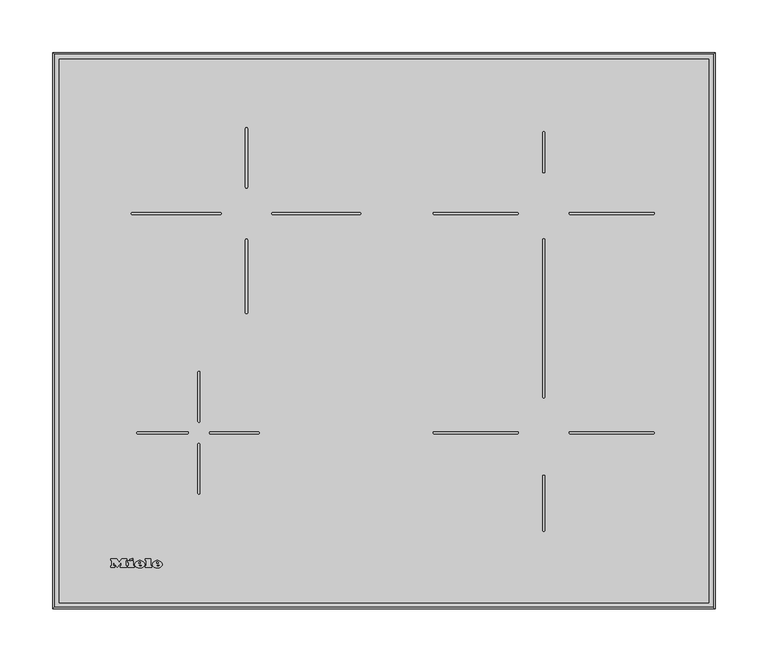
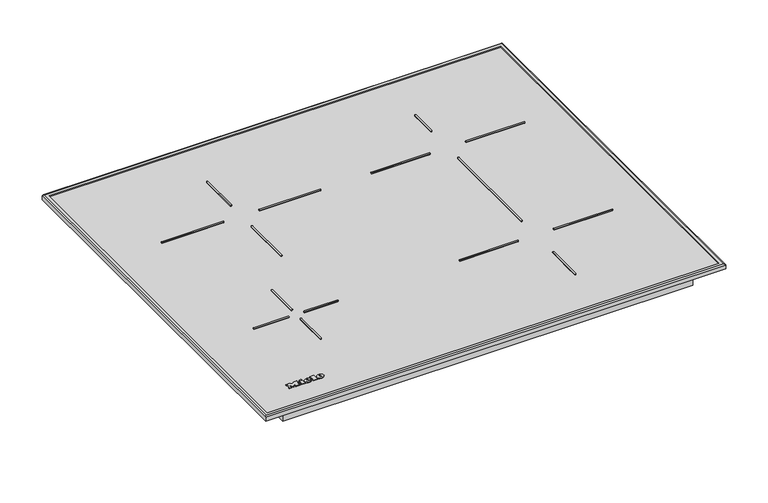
"""IFC4 building model written with IfcOpenShell, lengths in millimetres: proxy geometry, 12422050_NER_KM7363FR : 26736310_NER_12422050_KM7363FR."""

from ifc_helpers import new_model, si_unit, point, frame, frame_2d, origin, origin_with_axes, place, context, project, spatial, polyline, circle_curve, ellipse_curve, trimmed, segment, composite_curve, outline, extrude, source, transform, mapped, element, save
from ifc_brep_helpers import plane_surface, cylinder_surface, revolved_surface, extruded_surface, advanced_brep


def specialty_equipment_649d066a(model_context):
    return source(origin(), model_context, "Body", "SolidModel", [
        advanced_brep(
        [(-214.911984, 41.066, 5.0000007), (-214.911984, 41.874, 5.0000007), (-209.559984, 41.874, 5.0000007), (-218.871984, 41.874, 5.0000007), (-216.671984, 39.17, 5.0000007), (-209.695984, 41.066, 5.0000007), (-212.111984, 41.066, 5.0000007), (-214.015984, 40.17, 5.0000007), (-214.911984, 42.898, 5.0000007), (-214.911984, 43.77, 5.0000007), (-213.543984, 43.77, 5.0000007), (-213.543984, 42.898, 5.0000007), (-214.911984, 41.066, 4.0000007), (-214.015984, 40.17, 4.0000007), (-212.111984, 41.066, 4.0000007), (-209.695984, 41.066, 4.0000007), (-216.671984, 39.17, 4.0000007), (-218.871984, 41.874, 4.0000007), (-209.559984, 41.874, 4.0000007), (-214.911984, 41.874, 4.0000007), (-214.911984, 42.898, 4.0000007), (-213.543984, 42.898, 4.0000007), (-213.543984, 43.77, 4.0000007), (-214.911984, 43.77, 4.0000007)],
        [
            (0, 1),
            (1, 2),
            (2, 3, ellipse_curve(frame((-214.215984, 41.874, 5.0000007), z_axis=(0.0, 0.0, 1.0), x_axis=(-1.0, 0.0, 0.0)), 4.656, 3.848)),
            (3, 4, circle_curve(frame((-215.7759404, 42.146, 5.0000007), z_axis=(0.0, 0.0, 1.0), x_axis=(0.0, -1.0, 0.0)), 3.1079688)),
            (4, 5, circle_curve(frame((-214.3091904, 44.258, 5.0000007), z_axis=(0.0, 0.0, 1.0), x_axis=(0.0, -1.0, 0.0)), 5.6098607)),
            (5, 6),
            (6, 7, circle_curve(frame((-213.6249252, 41.81, 5.0000007), z_axis=(0.0, 0.0, -1.0), x_axis=(0.0, -1.0, 0.0)), 1.6859795)),
            (7, 0, circle_curve(frame((-214.015984, 41.066, 5.0000007), z_axis=(0.0, 0.0, -1.0), x_axis=(0.0, -1.0, 0.0)), 0.896)),
            (8, 9),
            (9, 10, circle_curve(frame((-214.227984, 43.77, 5.0000007), z_axis=(0.0, 0.0, -1.0), x_axis=(0.0, -1.0, 0.0)), 0.684)),
            (10, 11),
            (11, 8),
            (12, 13, circle_curve(frame((-214.015984, 41.066, 4.0000007), z_axis=(0.0, 0.0, 1.0), x_axis=(0.0, -1.0, 0.0)), 0.896)),
            (13, 14, circle_curve(frame((-213.6249252, 41.81, 4.0000007), z_axis=(0.0, 0.0, 1.0), x_axis=(0.0, -1.0, 0.0)), 1.6859795)),
            (14, 15),
            (15, 16, circle_curve(frame((-214.3091904, 44.258, 4.0000007), z_axis=(0.0, 0.0, -1.0), x_axis=(0.0, -1.0, 0.0)), 5.6098607)),
            (16, 17, circle_curve(frame((-215.7759404, 42.146, 4.0000007), z_axis=(0.0, 0.0, -1.0), x_axis=(0.0, -1.0, 0.0)), 3.1079688)),
            (17, 18, ellipse_curve(frame((-214.215984, 41.874, 4.0000007), z_axis=(0.0, 0.0, -1.0), x_axis=(-1.0, 0.0, 0.0)), 4.656, 3.848)),
            (18, 19),
            (19, 12),
            (20, 21),
            (21, 22),
            (22, 23, circle_curve(frame((-214.227984, 43.77, 4.0000007), z_axis=(0.0, 0.0, 1.0), x_axis=(0.0, -1.0, 0.0)), 0.684)),
            (23, 20),
            (0, 12),
            (19, 1),
            (18, 2),
            (5, 15),
            (14, 6),
            (17, 3),
            (13, 7),
            (16, 4),
            (8, 20),
            (23, 9),
            (22, 10),
            (21, 11),
        ],
        [
            plane_surface(frame((-214.911984, 41.874, 5.0000007), z_axis=(0.0, 0.0, 1.0), x_axis=(0.0, 1.0, 0.0))),
            plane_surface(frame((-214.911984, 41.874, 4.0000007), z_axis=(0.0, 0.0, -1.0), x_axis=(0.0, -1.0, 0.0))),
            plane_surface(frame((-214.911984, 41.066, 5.0000007), z_axis=(1.0, 0.0, 0.0), x_axis=(0.0, 0.0, -1.0))),
            plane_surface(frame((-214.911984, 41.874, 5.0000007), z_axis=(0.0, -1.0, 0.0), x_axis=(0.0, 0.0, -1.0))),
            plane_surface(frame((-209.695984, 41.066, 5.0000007), z_axis=(0.0, 1.0, 0.0), x_axis=(0.0, 0.0, -1.0))),
            extruded_surface(trimmed(ellipse_curve(frame((-214.215984, 41.874, 3.0000007), z_axis=(0.0, 0.0, 1.0), x_axis=(-1.0, 0.0, 0.0)), 4.656, 3.848), [point((-209.559984, 41.874, 3.0000007))], [point((-218.871984, 41.874, 3.0000007))], True, "CARTESIAN"), (0.0, 0.0, 1.0), 1.0),
            revolved_surface(polyline([(-213.6249252, 40.1240205, 4.0000007), (-213.6249252, 40.1240205, 5.0000007)]), (-213.6249252, 41.81, 4.0000007), (0.0, 0.0, -1.0)),
            revolved_surface(polyline([(-214.015984, 40.17, 4.0000007), (-214.015984, 40.17, 5.0000007)]), (-214.015984, 41.066, 4.0000007), (0.0, 0.0, -1.0)),
            cylinder_surface(frame((-215.7759404, 42.146, 4.0000007), z_axis=(0.0, 0.0, 1.0), x_axis=(0.0, -1.0, 0.0)), 3.1079688),
            cylinder_surface(frame((-214.3091904, 44.258, 4.0000007), z_axis=(0.0, 0.0, 1.0), x_axis=(0.0, -1.0, 0.0)), 5.6098607),
            plane_surface(frame((-214.911984, 42.898, 5.0000007), z_axis=(1.0, 0.0, 0.0), x_axis=(0.0, 0.0, -1.0))),
            revolved_surface(polyline([(-214.227984, 43.086000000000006, 4.0000007), (-214.227984, 43.086000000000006, 5.0000007)]), (-214.227984, 43.77, 4.0000007), (0.0, 0.0, -1.0)),
            plane_surface(frame((-213.543984, 43.77, 5.0000007), z_axis=(-1.0, 0.0, 0.0), x_axis=(0.0, 0.0, -1.0))),
            plane_surface(frame((-213.543984, 42.898, 5.0000007), z_axis=(0.0, 1.0, 0.0), x_axis=(0.0, 0.0, -1.0))),
        ],
        [
            (0, [[1, 2, 3, 4, 5, 6, 7, 8], [9, 10, 11, 12]]),
            (1, [[13, 14, 15, 16, 17, 18, 19, 20], [21, 22, 23, 24]]),
            (2, [[-1, 25, -20, 26]]),
            (3, [[-2, -26, -19, 27]]),
            (4, [[-6, 28, -15, 29]]),
            (5, [[-3, -27, -18, 30]]),
            (6, [[-7, -29, -14, 31]]),
            (7, [[-8, -31, -13, -25]]),
            (8, [[-4, -30, -17, 32]]),
            (9, [[-5, -32, -16, -28]]),
            (10, [[-9, 33, -24, 34]]),
            (11, [[-10, -34, -23, 35]]),
            (12, [[-11, -35, -22, 36]]),
            (13, [[-12, -36, -21, -33]]),
        ],
    ),
        advanced_brep(
        [(-231.607984, 41.066, 5.0000007), (-231.607984, 41.874, 5.0000007), (-226.255984, 41.874, 5.0000007), (-235.567984, 41.874, 5.0000007), (-233.367984, 39.17, 5.0000007), (-226.391984, 41.066, 5.0000007), (-228.807984, 41.066, 5.0000007), (-230.711984, 40.17, 5.0000007), (-231.607984, 42.898, 5.0000007), (-231.607984, 43.77, 5.0000007), (-230.239984, 43.77, 5.0000007), (-230.239984, 42.898, 5.0000007), (-231.607984, 41.066, 4.0000007), (-230.711984, 40.17, 4.0000007), (-228.807984, 41.066, 4.0000007), (-226.391984, 41.066, 4.0000007), (-233.367984, 39.17, 4.0000007), (-235.567984, 41.874, 4.0000007), (-226.255984, 41.874, 4.0000007), (-231.607984, 41.874, 4.0000007), (-231.607984, 42.898, 4.0000007), (-230.239984, 42.898, 4.0000007), (-230.239984, 43.77, 4.0000007), (-231.607984, 43.77, 4.0000007)],
        [
            (0, 1),
            (1, 2),
            (2, 3, ellipse_curve(frame((-230.911984, 41.874, 5.0000007), z_axis=(0.0, 0.0, 1.0), x_axis=(-1.0, 0.0, 0.0)), 4.656, 3.848)),
            (3, 4, circle_curve(frame((-232.4719404, 42.146, 5.0000007), z_axis=(0.0, 0.0, 1.0), x_axis=(0.0, -1.0, 0.0)), 3.1079688)),
            (4, 5, circle_curve(frame((-231.0051904, 44.258, 5.0000007), z_axis=(0.0, 0.0, 1.0), x_axis=(0.0, -1.0, 0.0)), 5.6098607)),
            (5, 6),
            (6, 7, circle_curve(frame((-230.3209252, 41.81, 5.0000007), z_axis=(0.0, 0.0, -1.0), x_axis=(0.0, -1.0, 0.0)), 1.6859795)),
            (7, 0, circle_curve(frame((-230.711984, 41.066, 5.0000007), z_axis=(0.0, 0.0, -1.0), x_axis=(0.0, -1.0, 0.0)), 0.896)),
            (8, 9),
            (9, 10, circle_curve(frame((-230.923984, 43.77, 5.0000007), z_axis=(0.0, 0.0, -1.0), x_axis=(0.0, -1.0, 0.0)), 0.684)),
            (10, 11),
            (11, 8),
            (12, 13, circle_curve(frame((-230.711984, 41.066, 4.0000007), z_axis=(0.0, 0.0, 1.0), x_axis=(0.0, -1.0, 0.0)), 0.896)),
            (13, 14, circle_curve(frame((-230.3209252, 41.81, 4.0000007), z_axis=(0.0, 0.0, 1.0), x_axis=(0.0, -1.0, 0.0)), 1.6859795)),
            (14, 15),
            (15, 16, circle_curve(frame((-231.0051904, 44.258, 4.0000007), z_axis=(0.0, 0.0, -1.0), x_axis=(0.0, -1.0, 0.0)), 5.6098607)),
            (16, 17, circle_curve(frame((-232.4719404, 42.146, 4.0000007), z_axis=(0.0, 0.0, -1.0), x_axis=(0.0, -1.0, 0.0)), 3.1079688)),
            (17, 18, ellipse_curve(frame((-230.911984, 41.874, 4.0000007), z_axis=(0.0, 0.0, -1.0), x_axis=(-1.0, 0.0, 0.0)), 4.656, 3.848)),
            (18, 19),
            (19, 12),
            (20, 21),
            (21, 22),
            (22, 23, circle_curve(frame((-230.923984, 43.77, 4.0000007), z_axis=(0.0, 0.0, 1.0), x_axis=(0.0, -1.0, 0.0)), 0.684)),
            (23, 20),
            (0, 12),
            (19, 1),
            (18, 2),
            (5, 15),
            (14, 6),
            (17, 3),
            (13, 7),
            (16, 4),
            (8, 20),
            (23, 9),
            (22, 10),
            (21, 11),
        ],
        [
            plane_surface(frame((-231.607984, 41.874, 5.0000007), z_axis=(0.0, 0.0, 1.0), x_axis=(0.0, 1.0, 0.0))),
            plane_surface(frame((-231.607984, 41.874, 4.0000007), z_axis=(0.0, 0.0, -1.0), x_axis=(0.0, -1.0, 0.0))),
            plane_surface(frame((-231.607984, 41.066, 5.0000007), z_axis=(1.0, 0.0, 0.0), x_axis=(0.0, 0.0, -1.0))),
            plane_surface(frame((-231.607984, 41.874, 5.0000007), z_axis=(0.0, -1.0, 0.0), x_axis=(0.0, 0.0, -1.0))),
            plane_surface(frame((-226.391984, 41.066, 5.0000007), z_axis=(0.0, 1.0, 0.0), x_axis=(0.0, 0.0, -1.0))),
            extruded_surface(trimmed(ellipse_curve(frame((-230.911984, 41.874, 3.0000007), z_axis=(0.0, 0.0, 1.0), x_axis=(-1.0, 0.0, 0.0)), 4.656, 3.848), [point((-226.255984, 41.874, 3.0000007))], [point((-235.567984, 41.874, 3.0000007))], True, "CARTESIAN"), (0.0, 0.0, 1.0), 1.0),
            revolved_surface(polyline([(-230.3209252, 40.1240205, 4.0000007), (-230.3209252, 40.1240205, 5.0000007)]), (-230.3209252, 41.81, 4.0000007), (0.0, 0.0, -1.0)),
            revolved_surface(polyline([(-230.711984, 40.17, 4.0000007), (-230.711984, 40.17, 5.0000007)]), (-230.711984, 41.066, 4.0000007), (0.0, 0.0, -1.0)),
            cylinder_surface(frame((-232.4719404, 42.146, 4.0000007), z_axis=(0.0, 0.0, 1.0), x_axis=(0.0, -1.0, 0.0)), 3.1079688),
            cylinder_surface(frame((-231.0051904, 44.258, 4.0000007), z_axis=(0.0, 0.0, 1.0), x_axis=(0.0, -1.0, 0.0)), 5.6098607),
            plane_surface(frame((-231.607984, 42.898, 5.0000007), z_axis=(1.0, 0.0, 0.0), x_axis=(0.0, 0.0, -1.0))),
            revolved_surface(polyline([(-230.923984, 43.086000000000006, 4.0000007), (-230.923984, 43.086000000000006, 5.0000007)]), (-230.923984, 43.77, 4.0000007), (0.0, 0.0, -1.0)),
            plane_surface(frame((-230.239984, 43.77, 5.0000007), z_axis=(-1.0, 0.0, 0.0), x_axis=(0.0, 0.0, -1.0))),
            plane_surface(frame((-230.239984, 42.898, 5.0000007), z_axis=(0.0, 1.0, 0.0), x_axis=(0.0, 0.0, -1.0))),
        ],
        [
            (0, [[1, 2, 3, 4, 5, 6, 7, 8], [9, 10, 11, 12]]),
            (1, [[13, 14, 15, 16, 17, 18, 19, 20], [21, 22, 23, 24]]),
            (2, [[-1, 25, -20, 26]]),
            (3, [[-2, -26, -19, 27]]),
            (4, [[-6, 28, -15, 29]]),
            (5, [[-3, -27, -18, 30]]),
            (6, [[-7, -29, -14, 31]]),
            (7, [[-8, -31, -13, -25]]),
            (8, [[-4, -30, -17, 32]]),
            (9, [[-5, -32, -16, -28]]),
            (10, [[-9, 33, -24, 34]]),
            (11, [[-10, -34, -23, 35]]),
            (12, [[-11, -35, -22, 36]]),
            (13, [[-12, -36, -21, -33]]),
        ],
    ),
        extrude(outline(polyline([(-240.351984, 46.698), (-237.631984, 47.962), (-237.031984, 46.666), (-239.743984, 45.402), (-240.351984, 46.698)])), frame((0.0, 0.0, 4.0000007), z_axis=(0.0, 0.0, 1.0), x_axis=(1.0, 0.0, 0.0)), (0.0, 0.0, 1.0), 1.0),
        extrude(outline(polyline([(-242.327984, 45.226), (-236.943984, 45.226), (-236.943984, 40.514), (-236.015984, 40.514), (-236.015984, 39.17), (-242.327984, 39.17), (-242.327984, 40.514), (-241.375984, 40.514), (-241.375984, 43.794), (-242.327984, 43.794), (-242.327984, 45.226)])), frame((0.0, 0.0, 4.0000007), z_axis=(0.0, 0.0, 1.0), x_axis=(1.0, 0.0, 0.0)), (0.0, 0.0, 1.0), 1.0),
        extrude(outline(polyline([(-225.807984, 45.866), (-225.807984, 47.17), (-220.303984, 47.17), (-220.303984, 40.514), (-219.319984, 40.514), (-219.319984, 39.17), (-225.807984, 39.17), (-225.807984, 40.514), (-224.847984, 40.514), (-224.847984, 45.866), (-225.807984, 45.866)])), frame((0.0, 0.0, 4.0000007), z_axis=(0.0, 0.0, 1.0), x_axis=(1.0, 0.0, 0.0)), (0.0, 0.0, 1.0), 1.0),
        extrude(outline(polyline([(-258.271984, 45.866), (-258.271984, 47.17), (-252.695984, 47.17), (-250.351984, 44.17), (-248.015984, 47.17), (-243.143984, 47.17), (-243.143984, 45.866), (-244.159984, 45.866), (-244.159984, 40.514), (-243.143984, 40.514), (-243.143984, 39.17), (-249.527984, 39.17), (-249.527984, 40.514), (-248.543984, 40.514), (-248.543984, 43.9852223), (-252.135984, 39.17), (-255.711984, 43.9171247), (-255.711984, 40.514), (-254.751984, 40.514), (-254.751984, 39.17), (-258.271984, 39.17), (-258.271984, 40.514), (-257.303984, 40.514), (-257.303984, 45.866), (-258.271984, 45.866)])), frame((0.0, 0.0, 4.0000007), z_axis=(0.0, 0.0, 1.0), x_axis=(1.0, 0.0, 0.0)), (0.0, 0.0, 1.0), 1.0),
        extrude(outline(composite_curve([segment(trimmed(circle_curve(frame_2d((-130.0, 454.215881)), 1.0), [point((-131.0, 454.215881))], [point((-129.0, 454.215881))], False, "CARTESIAN"), True, "CONTINUOUS"), segment(polyline([(-129.0, 454.215881), (-129.0, 399.0)]), True, "CONTINUOUS"), segment(trimmed(circle_curve(frame_2d((-130.0, 399.0)), 1.0), [point((-129.0, 399.0))], [point((-131.0, 399.0))], False, "CARTESIAN"), True, "CONTINUOUS"), segment(polyline([(-131.0, 399.0), (-131.0, 454.215881)]), True, "CONTINUOUS")], self_intersect=False)), frame((0.0, 0.0, 4.0000007), z_axis=(0.0, 0.0, 1.0), x_axis=(1.0, 0.0, 0.0)), (0.0, 0.0, 1.0), 1.0),
        extrude(outline(composite_curve([segment(polyline([(-23.0464469, 373.0), (-105.0, 373.0)]), True, "CONTINUOUS"), segment(trimmed(circle_curve(frame_2d((-105.0, 374.0)), 1.0), [point((-105.0, 373.0))], [point((-105.0, 375.0))], False, "CARTESIAN"), True, "CONTINUOUS"), segment(polyline([(-105.0, 375.0), (-23.0464469, 375.0)]), True, "CONTINUOUS"), segment(trimmed(circle_curve(frame_2d((-23.0464469, 374.0)), 1.0), [point((-23.0464469, 375.0))], [point((-23.0464469, 373.0))], False, "CARTESIAN"), True, "CONTINUOUS")], self_intersect=False)), frame((0.0, 0.0, 4.0000007), z_axis=(0.0, 0.0, 1.0), x_axis=(1.0, 0.0, 0.0)), (0.0, 0.0, 1.0), 1.0),
        extrude(outline(composite_curve([segment(trimmed(circle_curve(frame_2d((-237.9080744, 374.0)), 1.0), [point((-237.9080744, 373.0))], [point((-237.9080744, 375.0))], False, "CARTESIAN"), True, "CONTINUOUS"), segment(polyline([(-237.9080744, 375.0), (-155.0, 375.0)]), True, "CONTINUOUS"), segment(trimmed(circle_curve(frame_2d((-155.0, 374.0)), 1.0), [point((-155.0, 375.0))], [point((-155.0, 373.0))], False, "CARTESIAN"), True, "CONTINUOUS"), segment(polyline([(-155.0, 373.0), (-237.9080744, 373.0)]), True, "CONTINUOUS")], self_intersect=False)), frame((0.0, 0.0, 4.0000007), z_axis=(0.0, 0.0, 1.0), x_axis=(1.0, 0.0, 0.0)), (0.0, 0.0, 1.0), 1.0),
        extrude(outline(composite_curve([segment(polyline([(-176.0, 177.5), (-176.0, 223.6606747)]), True, "CONTINUOUS"), segment(trimmed(circle_curve(frame_2d((-175.0, 223.6606747)), 1.0), [point((-176.0, 223.6606747))], [point((-174.0, 223.6606747))], False, "CARTESIAN"), True, "CONTINUOUS"), segment(polyline([(-174.0, 223.6606747), (-174.0, 177.5)]), True, "CONTINUOUS"), segment(trimmed(circle_curve(frame_2d((-175.0, 177.5)), 1.0), [point((-174.0, 177.5))], [point((-176.0, 177.5))], False, "CARTESIAN"), True, "CONTINUOUS")], self_intersect=False)), frame((0.0, 0.0, 4.0000007), z_axis=(0.0, 0.0, 1.0), x_axis=(1.0, 0.0, 0.0)), (0.0, 0.0, 1.0), 1.0),
        extrude(outline(composite_curve([segment(trimmed(circle_curve(frame_2d((-175.0, 155.4410817)), 1.0), [point((-176.0, 155.4410817))], [point((-174.0, 155.4410817))], False, "CARTESIAN"), True, "CONTINUOUS"), segment(polyline([(-174.0, 155.4410817), (-174.0, 109.5)]), True, "CONTINUOUS"), segment(trimmed(circle_curve(frame_2d((-175.0, 109.5)), 1.0), [point((-174.0, 109.5))], [point((-176.0, 109.5))], False, "CARTESIAN"), True, "CONTINUOUS"), segment(polyline([(-176.0, 109.5), (-176.0, 155.4410817)]), True, "CONTINUOUS")], self_intersect=False)), frame((0.0, 0.0, 4.0000007), z_axis=(0.0, 0.0, 1.0), x_axis=(1.0, 0.0, 0.0)), (0.0, 0.0, 1.0), 1.0),
        extrude(outline(composite_curve([segment(polyline([(150.0, 413.4860171), (150.0, 450.2771149)]), True, "CONTINUOUS"), segment(trimmed(circle_curve(frame_2d((151.0, 450.2771149)), 1.0), [point((150.0, 450.2771149))], [point((152.0, 450.2771149))], False, "CARTESIAN"), True, "CONTINUOUS"), segment(polyline([(152.0, 450.2771149), (152.0, 413.4860171)]), True, "CONTINUOUS"), segment(trimmed(circle_curve(frame_2d((151.0, 413.4860171)), 1.0), [point((152.0, 413.4860171))], [point((150.0, 413.4860171))], False, "CARTESIAN"), True, "CONTINUOUS")], self_intersect=False)), frame((0.0, 0.0, 4.0000007), z_axis=(0.0, 0.0, 1.0), x_axis=(1.0, 0.0, 0.0)), (0.0, 0.0, 1.0), 1.0),
        extrude(outline(composite_curve([segment(trimmed(circle_curve(frame_2d((-164.0, 166.5)), 1.0), [point((-164.0, 165.5))], [point((-164.0, 167.5))], False, "CARTESIAN"), True, "CONTINUOUS"), segment(polyline([(-164.0, 167.5), (-119.1108224, 167.5)]), True, "CONTINUOUS"), segment(trimmed(circle_curve(frame_2d((-119.1108224, 166.5)), 1.0), [point((-119.1108224, 167.5))], [point((-119.1108224, 165.5))], False, "CARTESIAN"), True, "CONTINUOUS"), segment(polyline([(-119.1108224, 165.5), (-164.0, 165.5)]), True, "CONTINUOUS")], self_intersect=False)), frame((0.0, 0.0, 4.0000007), z_axis=(0.0, 0.0, 1.0), x_axis=(1.0, 0.0, 0.0)), (0.0, 0.0, 1.0), 1.0),
        extrude(outline(composite_curve([segment(polyline([(-186.0, 165.5), (-232.6272894, 165.5)]), True, "CONTINUOUS"), segment(trimmed(circle_curve(frame_2d((-232.6272894, 166.5)), 1.0), [point((-232.6272894, 165.5))], [point((-232.6272894, 167.5))], False, "CARTESIAN"), True, "CONTINUOUS"), segment(polyline([(-232.6272894, 167.5), (-186.0, 167.5)]), True, "CONTINUOUS"), segment(trimmed(circle_curve(frame_2d((-186.0, 166.5)), 1.0), [point((-186.0, 167.5))], [point((-186.0, 165.5))], False, "CARTESIAN"), True, "CONTINUOUS")], self_intersect=False)), frame((0.0, 0.0, 4.0000007), z_axis=(0.0, 0.0, 1.0), x_axis=(1.0, 0.0, 0.0)), (0.0, 0.0, 1.0), 1.0),
        extrude(outline(composite_curve([segment(polyline([(126.0, 165.5), (47.5296024, 165.5)]), True, "CONTINUOUS"), segment(trimmed(circle_curve(frame_2d((47.5296024, 166.5)), 1.0), [point((47.5296024, 165.5))], [point((47.5296024, 167.5))], False, "CARTESIAN"), True, "CONTINUOUS"), segment(polyline([(47.5296024, 167.5), (126.0, 167.5)]), True, "CONTINUOUS"), segment(trimmed(circle_curve(frame_2d((126.0, 166.5)), 1.0), [point((126.0, 167.5))], [point((126.0, 165.5))], False, "CARTESIAN"), True, "CONTINUOUS")], self_intersect=False)), frame((0.0, 0.0, 4.0000007), z_axis=(0.0, 0.0, 1.0), x_axis=(1.0, 0.0, 0.0)), (0.0, 0.0, 1.0), 1.0),
        extrude(outline(composite_curve([segment(polyline([(150.0, 74.2663736), (150.0, 125.4452272)]), True, "CONTINUOUS"), segment(trimmed(circle_curve(frame_2d((151.0, 125.4452272)), 1.0), [point((150.0, 125.4452272))], [point((152.0, 125.4452272))], False, "CARTESIAN"), True, "CONTINUOUS"), segment(polyline([(152.0, 125.4452272), (152.0, 74.2663736)]), True, "CONTINUOUS"), segment(trimmed(circle_curve(frame_2d((151.0, 74.2663736)), 1.0), [point((152.0, 74.2663736))], [point((150.0, 74.2663736))], False, "CARTESIAN"), True, "CONTINUOUS")], self_intersect=False)), frame((0.0, 0.0, 4.0000007), z_axis=(0.0, 0.0, 1.0), x_axis=(1.0, 0.0, 0.0)), (0.0, 0.0, 1.0), 1.0),
        extrude(outline(composite_curve([segment(polyline([(152.0, 349.0843418), (152.0, 200.5399283)]), True, "CONTINUOUS"), segment(trimmed(circle_curve(frame_2d((151.0, 200.5399283)), 1.0), [point((152.0, 200.5399283))], [point((150.0, 200.5399283))], False, "CARTESIAN"), True, "CONTINUOUS"), segment(polyline([(150.0, 200.5399283), (150.0, 349.0843418)]), True, "CONTINUOUS"), segment(trimmed(circle_curve(frame_2d((151.0, 349.0843418)), 1.0), [point((150.0, 349.0843418))], [point((152.0, 349.0843418))], False, "CARTESIAN"), True, "CONTINUOUS")], self_intersect=False)), frame((0.0, 0.0, 4.0000007), z_axis=(0.0, 0.0, 1.0), x_axis=(1.0, 0.0, 0.0)), (0.0, 0.0, 1.0), 1.0),
        extrude(outline(composite_curve([segment(trimmed(circle_curve(frame_2d((176.0, 166.5)), 1.0), [point((176.0, 165.5))], [point((176.0, 167.5))], False, "CARTESIAN"), True, "CONTINUOUS"), segment(polyline([(176.0, 167.5), (254.4703976, 167.5)]), True, "CONTINUOUS"), segment(trimmed(circle_curve(frame_2d((254.4703976, 166.5)), 1.0), [point((254.4703976, 167.5))], [point((254.4703976, 165.5))], False, "CARTESIAN"), True, "CONTINUOUS"), segment(polyline([(254.4703976, 165.5), (176.0, 165.5)]), True, "CONTINUOUS")], self_intersect=False)), frame((0.0, 0.0, 4.0000007), z_axis=(0.0, 0.0, 1.0), x_axis=(1.0, 0.0, 0.0)), (0.0, 0.0, 1.0), 1.0),
        extrude(outline(composite_curve([segment(polyline([(125.9136914, 373.0), (47.444481, 373.0)]), True, "CONTINUOUS"), segment(trimmed(circle_curve(frame_2d((47.444481, 374.0)), 1.0), [point((47.444481, 373.0))], [point((47.444481, 375.0))], False, "CARTESIAN"), True, "CONTINUOUS"), segment(polyline([(47.444481, 375.0), (125.9136914, 375.0)]), True, "CONTINUOUS"), segment(trimmed(circle_curve(frame_2d((125.9136914, 374.0)), 1.0), [point((125.9136914, 375.0))], [point((125.9136914, 373.0))], False, "CARTESIAN"), True, "CONTINUOUS")], self_intersect=False)), frame((0.0, 0.0, 4.0000007), z_axis=(0.0, 0.0, 1.0), x_axis=(1.0, 0.0, 0.0)), (0.0, 0.0, 1.0), 1.0),
        extrude(outline(composite_curve([segment(trimmed(circle_curve(frame_2d((176.0863086, 374.0)), 1.0), [point((176.0863086, 373.0))], [point((176.0863086, 375.0))], False, "CARTESIAN"), True, "CONTINUOUS"), segment(polyline([(176.0863086, 375.0), (254.555519, 375.0)]), True, "CONTINUOUS"), segment(trimmed(circle_curve(frame_2d((254.555519, 374.0)), 1.0), [point((254.555519, 375.0))], [point((254.555519, 373.0))], False, "CARTESIAN"), True, "CONTINUOUS"), segment(polyline([(254.555519, 373.0), (176.0863086, 373.0)]), True, "CONTINUOUS")], self_intersect=False)), frame((0.0, 0.0, 4.0000007), z_axis=(0.0, 0.0, 1.0), x_axis=(1.0, 0.0, 0.0)), (0.0, 0.0, 1.0), 1.0),
        extrude(outline(composite_curve([segment(polyline([(-131.0, 280.1710047), (-131.0, 348.8348457)]), True, "CONTINUOUS"), segment(trimmed(circle_curve(frame_2d((-130.0, 348.8348457)), 1.0), [point((-131.0, 348.8348457))], [point((-129.0, 348.8348457))], False, "CARTESIAN"), True, "CONTINUOUS"), segment(polyline([(-129.0, 348.8348457), (-129.0, 280.1710047)]), True, "CONTINUOUS"), segment(trimmed(circle_curve(frame_2d((-130.0, 280.1710047)), 1.0), [point((-129.0, 280.1710047))], [point((-131.0, 280.1710047))], False, "CARTESIAN"), True, "CONTINUOUS")], self_intersect=False)), frame((0.0, 0.0, 4.0000007), z_axis=(0.0, 0.0, 1.0), x_axis=(1.0, 0.0, 0.0)), (0.0, 0.0, 1.0), 1.0),
        advanced_brep(
        [(313.0, 526.0, 0.0), (313.0, 526.0, 5.5271728), (313.0, 0.0, 5.5271728), (313.0, 0.0, 0.0), (311.5271728, 524.5271728, 5.8817013), (311.5271728, 524.5271728, 0.0), (311.5271728, 1.4728272, 0.0), (311.5271728, 1.4728272, 5.8817013), (307.2139587, 520.2139587, 7.0), (307.2139587, 520.2139587, 5.8817013), (307.2139587, 5.7860413, 5.8817013), (307.2139587, 5.7860413, 7.0), (311.5271728, 524.5271728, 7.0), (311.5271728, 1.4728272, 7.0), (-313.0, 0.0, 5.5271728), (-313.0, 0.0, 0.0), (-311.5271728, 1.4728272, 0.0), (-311.5271728, 1.4728272, 5.8817013), (-307.2139587, 5.7860413, 5.8817013), (-307.2139587, 5.7860413, 7.0), (-311.5271728, 1.4728272, 7.0), (-313.0, 526.0, 5.5271728), (-313.0, 526.0, 0.0), (-311.5271728, 524.5271728, 0.0), (-311.5271728, 524.5271728, 5.8817013), (-307.2139587, 520.2139587, 5.8817013), (-307.2139587, 520.2139587, 7.0), (-311.5271728, 524.5271728, 7.0)],
        [
            (0, 1),
            (1, 2),
            (2, 3),
            (3, 0),
            (4, 5),
            (5, 6),
            (6, 7),
            (7, 4),
            (8, 9),
            (9, 10),
            (10, 11),
            (11, 8),
            (1, 12, ellipse_curve(frame((311.5271728, 524.5271728, 5.5271728), z_axis=(0.7071067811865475, -0.7071067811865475, 0.0), x_axis=(0.7071067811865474, 0.7071067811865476, 0.0)), 2.0828921, 1.4728272)),
            (12, 13),
            (13, 2, ellipse_curve(frame((311.5271728, 1.4728272, 5.5271728), z_axis=(0.7071067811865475, 0.7071067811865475, 0.0), x_axis=(-0.7071067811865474, 0.7071067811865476, 0.0)), 2.0828921, 1.4728272)),
            (2, 14),
            (14, 15),
            (15, 3),
            (6, 16),
            (16, 17),
            (17, 7),
            (10, 18),
            (18, 19),
            (19, 11),
            (13, 20),
            (20, 14, ellipse_curve(frame((-311.5271728, 1.4728272, 5.5271728), z_axis=(0.7071067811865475, -0.7071067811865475, 0.0), x_axis=(0.7071067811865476, 0.7071067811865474, 0.0)), 2.0828921, 1.4728272)),
            (14, 21),
            (21, 22),
            (22, 15),
            (16, 23),
            (23, 24),
            (24, 17),
            (18, 25),
            (25, 26),
            (26, 19),
            (20, 27),
            (27, 21, ellipse_curve(frame((-311.5271728, 524.5271728, 5.5271728), z_axis=(-0.7071067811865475, -0.7071067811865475, 0.0), x_axis=(0.7071067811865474, -0.7071067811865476, 0.0)), 2.0828921, 1.4728272)),
            (21, 1),
            (0, 22),
            (5, 23),
            (4, 24),
            (9, 25),
            (8, 26),
            (12, 27),
        ],
        [
            plane_surface(frame((313.0, 526.0, 5.5271728), z_axis=(1.0, 0.0, 0.0), x_axis=(0.0, -1.0, 0.0))),
            plane_surface(frame((311.5271728, 524.5271728, 0.0), z_axis=(-1.0, 0.0, 0.0), x_axis=(0.0, -1.0, 0.0))),
            plane_surface(frame((307.2139587, 520.2139587, 5.8817013), z_axis=(-1.0, 0.0, 0.0), x_axis=(0.0, -1.0, 0.0))),
            cylinder_surface(frame((311.5271728, 526.0, 5.5271728), z_axis=(0.0, 1.0, 0.0), x_axis=(1.0, 0.0, 0.0)), 1.4728272),
            plane_surface(frame((313.0, 0.0, 5.5271728), z_axis=(0.0, -1.0, 0.0), x_axis=(-1.0, 0.0, 0.0))),
            plane_surface(frame((311.5271728, 1.4728272, 0.0), z_axis=(0.0, 1.0, 0.0), x_axis=(-1.0, 0.0, 0.0))),
            plane_surface(frame((307.2139587, 5.7860413, 5.8817013), z_axis=(0.0, 1.0, 0.0), x_axis=(-1.0, 0.0, 0.0))),
            cylinder_surface(frame((313.0, 1.4728272, 5.5271728), z_axis=(1.0, 0.0, 0.0), x_axis=(0.0, -1.0, 0.0)), 1.4728272),
            plane_surface(frame((-313.0, 0.0, 5.5271728), z_axis=(-1.0, 0.0, 0.0), x_axis=(0.0, 1.0, 0.0))),
            plane_surface(frame((-311.5271728, 1.4728272, 0.0), z_axis=(1.0, 0.0, 0.0), x_axis=(0.0, 1.0, 0.0))),
            plane_surface(frame((-307.2139587, 5.7860413, 5.8817013), z_axis=(1.0, 0.0, 0.0), x_axis=(0.0, 1.0, 0.0))),
            cylinder_surface(frame((-311.5271728, 0.0, 5.5271728), z_axis=(0.0, -1.0, 0.0), x_axis=(-1.0, 0.0, 0.0)), 1.4728272),
            plane_surface(frame((-313.0, 526.0, 5.5271728), z_axis=(0.0, 1.0, 0.0), x_axis=(1.0, 0.0, 0.0))),
            plane_surface(frame((-313.0, 526.0, 0.0), z_axis=(0.0, 0.0, -1.0), x_axis=(1.0, 0.0, 0.0))),
            plane_surface(frame((-311.5271728, 524.5271728, 0.0), z_axis=(0.0, -1.0, 0.0), x_axis=(1.0, 0.0, 0.0))),
            plane_surface(frame((-311.5271728, 524.5271728, 5.8817013), z_axis=(0.0, 0.0, -1.0), x_axis=(1.0, 0.0, 0.0))),
            plane_surface(frame((-307.2139587, 520.2139587, 5.8817013), z_axis=(0.0, -1.0, 0.0), x_axis=(1.0, 0.0, 0.0))),
            plane_surface(frame((-307.2139587, 520.2139587, 7.0), z_axis=(0.0, 0.0, 1.0), x_axis=(1.0, 0.0, 0.0))),
            cylinder_surface(frame((-313.0, 524.5271728, 5.5271728), z_axis=(-1.0, 0.0, 0.0), x_axis=(0.0, 1.0, 0.0)), 1.4728272),
        ],
        [
            (0, [[1, 2, 3, 4]]),
            (1, [[5, 6, 7, 8]]),
            (2, [[9, 10, 11, 12]]),
            (3, [[13, 14, 15, -2]]),
            (4, [[-3, 16, 17, 18]]),
            (5, [[-7, 19, 20, 21]]),
            (6, [[-11, 22, 23, 24]]),
            (7, [[-15, 25, 26, -16]]),
            (8, [[-17, 27, 28, 29]]),
            (9, [[-20, 30, 31, 32]]),
            (10, [[-23, 33, 34, 35]]),
            (11, [[-26, 36, 37, -27]]),
            (12, [[-28, 38, -1, 39]]),
            (13, [[-18, -29, -39, -4], [40, -30, -19, -6]]),
            (14, [[-31, -40, -5, 41]]),
            (15, [[-21, -32, -41, -8], [42, -33, -22, -10]]),
            (16, [[-34, -42, -9, 43]]),
            (17, [[44, -36, -25, -14], [-24, -35, -43, -12]]),
            (18, [[-37, -44, -13, -38]]),
        ],
    ),
        extrude(outline(polyline([(186.7938197, 483.0), (186.7938197, 365.7202614), (189.0, 365.7202614), (189.0, 79.0), (-105.0, 79.0), (-105.0, 483.0), (186.7938197, 483.0)])), frame((0.0, 0.0, -49.1723575), z_axis=(0.0, 0.0, 1.0), x_axis=(1.0, 0.0, 0.0)), (0.0, 0.0, 1.0), 26.1723575),
        extrude(outline(polyline([(279.0, 507.0), (279.0, 19.0), (-279.0, 19.0), (-279.0, 507.0), (279.0, 507.0)])), frame((0.0, 0.0, -23.0), z_axis=(0.0, 0.0, 1.0), x_axis=(1.0, 0.0, 0.0)), (0.0, 0.0, 1.0), 23.0),
        extrude(outline(polyline([(309.75, 523.0), (309.75, 3.0), (-309.75, 3.0), (-309.75, 523.0), (309.75, 523.0)])), origin_with_axes(), (0.0, 0.0, 1.0), 4.0000007),
        extrude(outline(polyline([(189.6227397, 386.1708126), (197.0, 386.1708126), (197.0, 384.9151088), (190.8784436, 384.9151088), (190.8784436, 381.6188861), (196.529111, 381.6188861), (196.529111, 380.3631822), (190.8784436, 380.3631822), (190.8784436, 377.3808855), (196.843037, 377.3808855), (196.843037, 376.1251816), (189.6227397, 376.1251816), (189.6227397, 386.1708126)])), frame((0.0, 0.0, -55.9814925), z_axis=(0.0, 0.0, 1.0), x_axis=(1.0, 0.0, 0.0)), (0.0, 0.0, 1.0), 1.0),
        extrude(outline(polyline([(198.8835558, 386.1708126), (205.1620752, 386.1708126), (205.1620752, 384.9151088), (200.1392597, 384.9151088), (200.1392597, 376.1251816), (198.8835558, 376.1251816), (198.8835558, 386.1708126)])), frame((0.0, 0.0, -55.9814925), z_axis=(0.0, 0.0, 1.0), x_axis=(1.0, 0.0, 0.0)), (0.0, 0.0, 1.0), 1.0),
        advanced_brep(
        [(174.0, 381.1708126, -42.9814925), (174.0, 381.1708126, -26.9814925), (188.7476293, 381.1708126, -42.9814925), (204.7476293, 381.1708126, -26.9814925), (188.7476293, 381.1708126, -54.9814925), (204.7476293, 381.1708126, -54.9814925)],
        [
            (0, 1, circle_curve(frame((174.0, 381.1708126, -34.9814925), z_axis=(-1.0, 0.0, 0.0), x_axis=(0.0, 0.0, 1.0)), 8.0)),
            (1, 0, circle_curve(frame((174.0, 381.1708126, -34.9814925), z_axis=(-1.0, 0.0, 0.0), x_axis=(0.0, 0.0, 1.0)), 8.0)),
            (0, 2),
            (2, 3, ellipse_curve(frame((196.7476293, 381.1708126, -34.9814925), z_axis=(-0.7071067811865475, 0.0, 0.7071067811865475), x_axis=(-0.7071067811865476, 0.0, -0.7071067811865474)), 11.3137085, 8.0)),
            (3, 1),
            (3, 2, ellipse_curve(frame((196.7476293, 381.1708126, -34.9814925), z_axis=(-0.7071067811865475, 0.0, 0.7071067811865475), x_axis=(-0.7071067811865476, 0.0, -0.7071067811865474)), 11.3137085, 8.0)),
            (4, 5, circle_curve(frame((196.7476293, 381.1708126, -54.9814925), z_axis=(0.0, 0.0, -1.0), x_axis=(1.0, 0.0, 0.0)), 8.0)),
            (5, 4, circle_curve(frame((196.7476293, 381.1708126, -54.9814925), z_axis=(0.0, 0.0, -1.0), x_axis=(1.0, 0.0, 0.0)), 8.0)),
            (2, 4),
            (5, 3),
        ],
        [
            plane_surface(frame((174.0, 0.0, -34.9814925), z_axis=(-1.0, 0.0, 0.0), x_axis=(0.0, -1.0, 0.0))),
            cylinder_surface(frame((174.0, 381.1708126, -34.9814925), z_axis=(-1.0, 0.0, 0.0), x_axis=(0.0, 0.0, 1.0)), 8.0),
            plane_surface(frame((196.7476293, 0.0, -54.9814925), z_axis=(0.0, 0.0, -1.0), x_axis=(0.0, -1.0, 0.0))),
            cylinder_surface(frame((196.7476293, 381.1708126, -34.9814925), z_axis=(0.0, 0.0, 1.0), x_axis=(1.0, 0.0, 0.0)), 8.0),
        ],
        [
            (0, [[1, 2]]),
            (1, [[-1, 3, 4, 5]]),
            (1, [[-2, -5, 6, -3]]),
            (2, [[7, 8]]),
            (3, [[-4, 9, -8, 10]]),
            (3, [[-6, -10, -7, -9]]),
        ],
    ),
    ])


if __name__ == "__main__":
    model = new_model("IFC4")
    model_context = context("Model", 3, world=origin())
    ifc_project = project(units=[si_unit("LENGTHUNIT", "METRE", prefix="MILLI")], contexts=[model_context])
    site = spatial("IfcSite", under=ifc_project)
    building = spatial("IfcBuilding", under=site)
    placement = place(None, origin())
    specialty_equipment_shape = specialty_equipment_649d066a(model_context)
    element("IfcBuildingElementProxy", 1, Name="12422050_NER_KM7363FR : 26736310_NER_12422050_KM7363FR", ObjectType="12422050_NER_KM7363FR : 26736310_NER_12422050_KM7363FR", at=placement, inside=building, context=model_context, shape_type="MappedRepresentation", body=[
        mapped(specialty_equipment_shape, transform((0.0, 0.0, 0.0), x_axis=(1.0, 0.0, 0.0), y_axis=(0.0, 1.0, 0.0), z_axis=(0.0, 0.0, 1.0))),
    ])
    save(model, "model.ifc")
